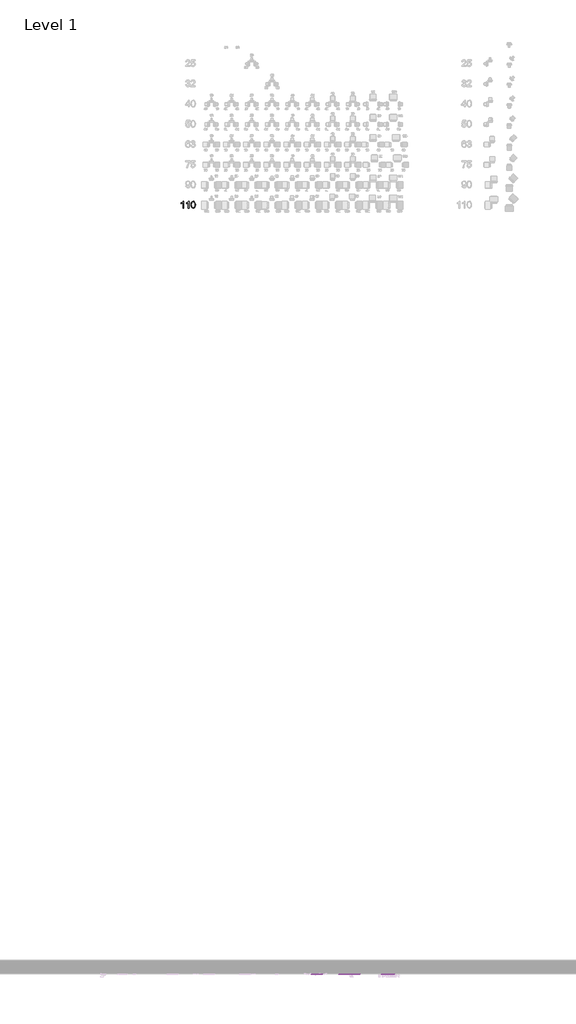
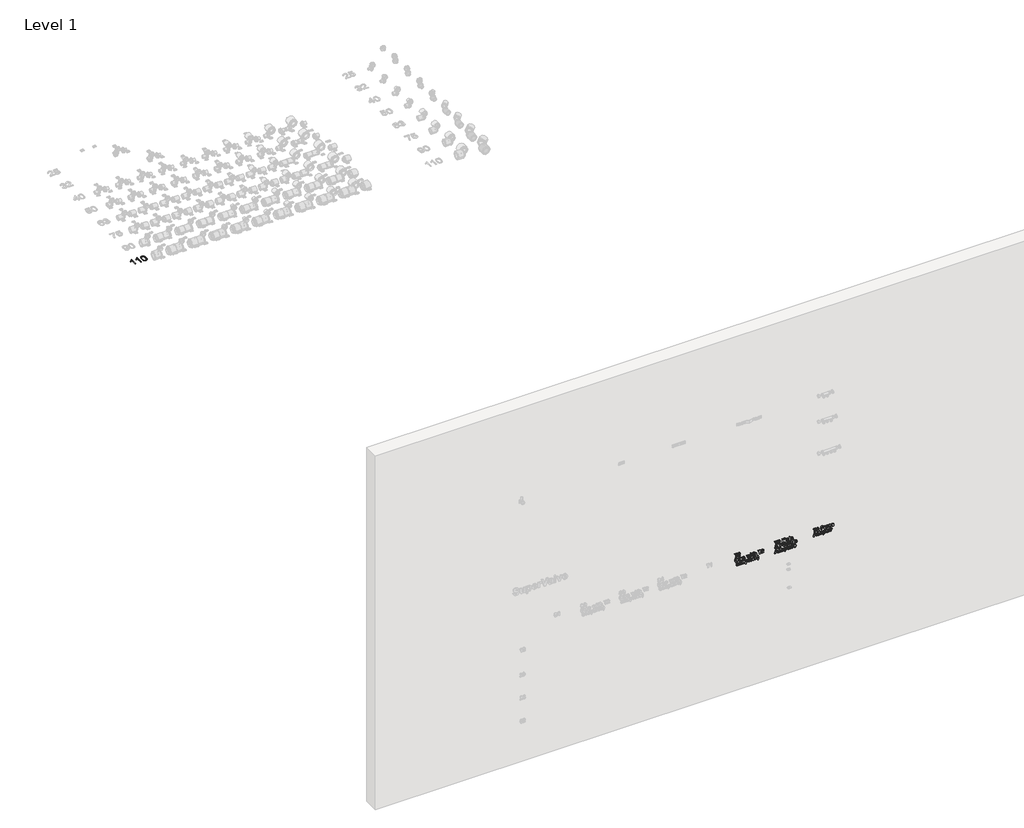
# One storey, part 16 of 58: 4 proxies.
"""IFC4 building model written with IfcOpenShell, lengths in millimetres."""

from ifc_helpers import new_model, si_unit, frame, origin, place, context, project, spatial, polyline, outline, extrude, element, save

model = new_model("IFC4")

# Units and contexts
model_context = context("Model", 3, world=origin())
ifc_project = project(units=[si_unit("LENGTHUNIT", "METRE", prefix="MILLI")], contexts=[model_context])

# Site, building, storey
site = spatial("IfcSite", under=ifc_project)
building = spatial("IfcBuilding", under=site)
storey = spatial("IfcBuildingStorey", under=building, Name="Level 1", Elevation=27.3876384)

# Proxies
placement = place(None, origin())
element("IfcBuildingElementProxy", 1, Name="100mm Arial", ObjectType="100mm Arial", at=placement, inside=storey, context=model_context, shape_type="SweptSolid", body=[
    extrude(outline(polyline([(12854.6585102, 15906.196048), (12842.1014715, 15906.196048), (12842.1014715, 15984.4813365), (12830.2066203, 15976.0077879), (12816.9873939, 15969.6679549), (12816.9873939, 15981.5382806), (12835.3937564, 15993.285979), (12846.5651063, 16006.6523581), (12854.6585102, 16006.6523581), (12854.6585102, 15906.196048)])), frame((0.0, 0.0, 27.3876384), z_axis=(0.0, 0.0, 1.0), x_axis=(1.0, 0.0, 0.0)), (0.0, 0.0, 1.0), 2.0),
    extrude(outline(polyline([(12931.5703727, 15906.196048), (12919.0133339, 15906.196048), (12919.0133339, 15984.4813365), (12907.1184827, 15976.0077879), (12893.8992564, 15969.6679549), (12893.8992564, 15981.5382806), (12912.3056189, 15993.285979), (12923.4769688, 16006.6523581), (12931.5703727, 16006.6523581), (12931.5703727, 15906.196048)])), frame((0.0, 0.0, 27.3876384), z_axis=(0.0, 0.0, 1.0), x_axis=(1.0, 0.0, 0.0)), (0.0, 0.0, 1.0), 2.0),
    extrude(outline(polyline([(12961.3933398, 15955.6148627), (12965.0844224, 15984.5181247), (12976.0473059, 16001.1831791), (12994.3555665, 16006.6523581), (13009.0217954, 16003.4149966), (13019.150813, 15994.0830566), (13025.0369249, 15979.220624), (13027.3177933, 15955.6148627), (13023.6634988, 15926.8342279), (13012.7374036, 15910.1323853), (13004.5060439, 15906.0029099), (12994.3555665, 15904.6264181), (12981.3080184, 15907.0176511), (12971.39973, 15914.19135), (12963.8949373, 15931.1813668), (12961.3933398, 15955.6148627)]), holes=[polyline([(12973.9503785, 15955.6393881), (12975.4219065, 15935.8871907), (12979.8364905, 15924.4552577), (12986.4093154, 15919.0014071), (12994.3555665, 15917.1834569), (13002.3018176, 15919.0075385), (13008.8746426, 15924.4797831), (13013.2892265, 15935.9178475), (13014.7607545, 15955.6393881), (13013.3382775, 15974.9470615), (13009.0708463, 15986.4678993), (13002.5102841, 15992.1884643), (12994.2084137, 15994.0953193), (12986.3480018, 15992.4153249), (12980.0326942, 15987.3753416), (12975.4709574, 15975.1371339), (12973.9503785, 15955.6393881)])]), frame((0.0, 0.0, 27.3876384), z_axis=(0.0, 0.0, 1.0), x_axis=(1.0, 0.0, 0.0)), (0.0, 0.0, 1.0), 2.0),
])
element("IfcBuildingElementProxy", 2, Name="50mm Arial", ObjectType="50mm Arial", at=placement, inside=storey, context=model_context, shape_type="SweptSolid", body=[
    extrude(outline(polyline([(1988.1712456, 14623.474325), (1988.1712456, 14633.1910812), (2030.2771891, 14633.1910812), (2030.2771891, 14647.7662155), (2039.1842156, 14647.7662155), (2039.1842156, 14608.8991908), (2030.2771891, 14608.8991908), (2030.2771891, 14623.474325), (1988.1712456, 14623.474325)])), frame((0.0, 4529.8703674, 0.0), z_axis=(0.0, 1.0, 0.0), x_axis=(0.0, 0.0, 1.0)), (0.0, 0.0, 1.0), 15.0),
    extrude(outline(polyline([(1997.8880018, 14685.0137809), (1997.8880018, 14666.9087313), (2000.5449273, 14668.7306231), (2006.0738628, 14674.2785366), (2012.450484, 14680.3198792), (2018.8397573, 14683.8877506), (2025.2669867, 14685.0137809), (2035.1925013, 14680.9018724), (2039.1842156, 14669.5909609), (2035.6226702, 14658.6469581), (2023.8752638, 14653.4343233), (2022.9896219, 14663.1510795), (2028.5881436, 14665.0235794), (2030.2771891, 14669.3758764), (2028.5628395, 14673.7218475), (2023.6475273, 14675.2970247), (2017.8022912, 14673.4245248), (2009.6543862, 14665.9092212), (1997.7045474, 14655.7243401), (1988.1712456, 14652.6245936), (1988.1712456, 14685.0137809), (1997.8880018, 14685.0137809)])), frame((0.0, 4529.8703674, 0.0), z_axis=(0.0, 1.0, 0.0), x_axis=(0.0, 0.0, 1.0)), (0.0, 0.0, 1.0), 15.0),
    extrude(outline(polyline([(1911.4501661, 14627.5229735), (1921.3313986, 14623.7400176), (1932.3449875, 14621.1716563), (1943.674877, 14620.2354063), (1958.8573086, 14621.7979316), (1976.2285407, 14627.5229735), (1976.2285407, 14621.045136), (1962.3113118, 14613.808177), (1943.8773095, 14610.5186501), (1927.6257817, 14613.2072057), (1911.4501661, 14621.045136), (1911.4501661, 14627.5229735)])), frame((0.0, 4529.8703674, 0.0), z_axis=(0.0, 1.0, 0.0), x_axis=(0.0, 0.0, 1.0)), (0.0, 0.0, 1.0), 15.0),
    extrude(outline(polyline([(1925.2155707, 14659.1024311), (1925.2155707, 14668.8191873), (1962.4631361, 14668.8191873), (1962.4631361, 14659.1024311), (1946.6607552, 14659.1024311), (1936.5454602, 14658.3875916), (1933.085131, 14655.7306661), (1931.6934081, 14651.3340869), (1932.7372003, 14647.7851936), (1935.5586022, 14645.8620856), (1945.2437283, 14645.3370265), (1962.4631361, 14645.3370265), (1962.4631361, 14635.6202703), (1938.9177151, 14635.6202703), (1930.67492, 14636.8854729), (1926.0506044, 14640.9847294), (1924.405841, 14647.3740027), (1926.0822345, 14654.0226425), (1930.681246, 14659.1024311), (1925.2155707, 14659.1024311)])), frame((0.0, 4529.8703674, 0.0), z_axis=(0.0, 1.0, 0.0), x_axis=(0.0, 0.0, 1.0)), (0.0, 0.0, 1.0), 15.0),
    extrude(outline(polyline([(1935.7420565, 14674.487295), (1927.4549793, 14680.1617288), (1924.405841, 14691.9344393), (1928.0686026, 14704.314447), (1936.8301308, 14708.4959417), (1944.13035, 14705.6112797), (1948.469995, 14695.3441604), (1951.1901806, 14686.7471085), (1952.9488123, 14685.8235106), (1954.9225284, 14686.7471085), (1955.9852986, 14691.3650981), (1954.732748, 14695.2872263), (1951.1269205, 14697.1597262), (1952.7463799, 14706.8764823), (1960.6159402, 14701.9801482), (1963.2728658, 14691.1120576), (1959.9833389, 14679.76319), (1951.8733901, 14676.1067544), (1943.5104007, 14680.3704873), (1938.7532388, 14694.9329695), (1937.4753842, 14698.1086281), (1935.6534924, 14698.7791855), (1933.072479, 14697.5139829), (1931.6934081, 14691.9344393), (1933.1357391, 14686.6901744), (1937.3615159, 14684.2040512), (1935.7420565, 14674.487295)])), frame((0.0, 4529.8703674, 0.0), z_axis=(0.0, 1.0, 0.0), x_axis=(0.0, 0.0, 1.0)), (0.0, 0.0, 1.0), 15.0),
    extrude(outline(polyline([(1936.5517862, 14738.45594), (1932.8447425, 14736.1659232), (1931.6934081, 14732.4335754), (1934.2491174, 14726.9805521), (1941.4101643, 14724.6905354), (1941.4101643, 14748.9824258), (1957.8957546, 14744.4909565), (1963.2728658, 14731.6744539), (1958.0349269, 14719.705637), (1943.5610088, 14714.9737792), (1930.7445062, 14718.5416506), (1925.9905073, 14724.2825075), (1924.405841, 14732.4715315), (1927.0943966, 14742.3780681), (1934.9323269, 14748.1726962), (1936.5517862, 14738.45594)]), holes=[polyline([(1947.0782721, 14739.2656696), (1947.0782721, 14724.8550117), (1953.5940656, 14726.8793359), (1955.9852986, 14732.0919707), (1953.7142599, 14737.1021732), (1947.0782721, 14739.2656696)])]), frame((0.0, 4529.8703674, 0.0), z_axis=(0.0, 1.0, 0.0), x_axis=(0.0, 0.0, 1.0)), (0.0, 0.0, 1.0), 15.0),
    extrude(outline(polyline([(1925.2155707, 14783.4718495), (1925.2155707, 14793.1506496), (1949.1658564, 14799.590531), (1925.2155707, 14806.1948887), (1925.2155707, 14815.7345165), (1962.4631361, 14827.526205), (1962.4631361, 14817.9486211), (1938.0573774, 14810.9267465), (1962.4631361, 14804.5374733), (1962.4631361, 14794.795413), (1938.0573774, 14788.2543154), (1962.4631361, 14781.2577449), (1962.4631361, 14771.6548569), (1925.2155707, 14783.4718495)])), frame((0.0, 4529.8703674, 0.0), z_axis=(0.0, 1.0, 0.0), x_axis=(0.0, 0.0, 1.0)), (0.0, 0.0, 1.0), 15.0),
    extrude(outline(polyline([(14842.1013393, 4529.8703674), (14832.3845831, 4529.8703674), (14832.3845831, 4544.8703674), (14842.1013393, 4544.8703674), (14842.1013393, 4529.8703674)])), frame((0.0, 0.0, 1967.3215142), z_axis=(0.0, 0.0, 1.0), x_axis=(1.0, 0.0, 0.0)), (0.0, 0.0, 1.0), 8.9070265),
    extrude(outline(polyline([(14842.1013393, 4529.8703674), (14832.3845831, 4529.8703674), (14832.3845831, 4544.8703674), (14842.1013393, 4544.8703674), (14842.1013393, 4529.8703674)])), frame((0.0, 0.0, 1925.2155707), z_axis=(0.0, 0.0, 1.0), x_axis=(1.0, 0.0, 0.0)), (0.0, 0.0, 1.0), 37.2475654),
    extrude(outline(polyline([(1962.4631361, 14869.6321485), (1962.4631361, 14862.3445814), (1975.418811, 14862.3445814), (1969.7507032, 14852.6278252), (1962.4631361, 14852.6278252), (1962.4631361, 14847.7694471), (1955.1755689, 14847.7694471), (1955.1755689, 14852.6278252), (1938.6520226, 14852.6278252), (1931.5795399, 14852.9441259), (1927.6700638, 14854.3674788), (1925.3167869, 14857.5747675), (1924.405841, 14862.4837537), (1925.7216517, 14870.4418782), (1932.6296581, 14870.0370134), (1931.6934081, 14865.4822839), (1932.2184672, 14863.5718279), (1933.54693, 14862.5659918), (1939.1960597, 14862.3445814), (1955.1755689, 14862.3445814), (1955.1755689, 14869.6321485), (1962.4631361, 14869.6321485)])), frame((0.0, 4529.8703674, 0.0), z_axis=(0.0, 1.0, 0.0), x_axis=(0.0, 0.0, 1.0)), (0.0, 0.0, 1.0), 15.0),
    extrude(outline(polyline([(1976.2285407, 14885.0170125), (1976.2285407, 14875.3002563), (1925.2155707, 14875.3002563), (1925.2155707, 14885.0170125), (1944.0038297, 14885.0170125), (1951.1648766, 14885.8836763), (1954.7833561, 14888.62284), (1955.9852986, 14892.8739208), (1955.0490487, 14896.315272), (1952.5249694, 14898.23838), (1945.0286438, 14898.7824171), (1925.2155707, 14898.7824171), (1925.2155707, 14908.4991733), (1947.0529681, 14908.4991733), (1954.4417514, 14908.0057443), (1958.7877224, 14906.1585484), (1962.0139891, 14902.1352041), (1963.2728658, 14896.1381436), (1957.7565823, 14885.0170125), (1976.2285407, 14885.0170125)])), frame((0.0, 4529.8703674, 0.0), z_axis=(0.0, 1.0, 0.0), x_axis=(0.0, 0.0, 1.0)), (0.0, 0.0, 1.0), 15.0),
    extrude(outline(polyline([(1925.2155707, 14948.9856574), (1925.2155707, 14958.7024136), (1967.3215142, 14958.7024136), (1967.3215142, 14973.2775479), (1976.2285407, 14973.2775479), (1976.2285407, 14934.4105231), (1967.3215142, 14934.4105231), (1967.3215142, 14948.9856574), (1925.2155707, 14948.9856574)])), frame((0.0, 4529.8703674, 0.0), z_axis=(0.0, 1.0, 0.0), x_axis=(0.0, 0.0, 1.0)), (0.0, 0.0, 1.0), 15.0),
    extrude(outline(polyline([(1934.9323269, 15010.5251133), (1934.9323269, 14992.4200637), (1937.5892524, 14994.2419555), (1943.1181879, 14999.789869), (1949.4948091, 15005.8312115), (1955.8840824, 15009.3990829), (1962.3113118, 15010.5251133), (1972.2368264, 15006.4132047), (1976.2285407, 14995.1022932), (1972.6669953, 14984.1582905), (1960.9195889, 14978.9456557), (1960.033947, 14988.6624119), (1965.6324687, 14990.5349117), (1967.3215142, 14994.8872088), (1965.6071646, 14999.2331798), (1960.6918524, 15000.8083571), (1954.8466162, 14998.9358572), (1946.6987113, 14991.4205536), (1934.7488725, 14981.2356724), (1925.2155707, 14978.135926), (1925.2155707, 15010.5251133), (1934.9323269, 15010.5251133)])), frame((0.0, 4529.8703674, 0.0), z_axis=(0.0, 1.0, 0.0), x_axis=(0.0, 0.0, 1.0)), (0.0, 0.0, 1.0), 15.0),
    extrude(outline(polyline([(1888.1712456, 14639.6689187), (1891.9542015, 14641.718547), (1893.0296237, 14645.2484623), (1891.7770731, 14649.7968657), (1886.5517862, 14651.0051343), (1884.1352492, 14641.9589355), (1881.8452325, 14634.5575001), (1878.0622766, 14630.5657858), (1872.4447769, 14629.1424328), (1864.5688906, 14632.3370695), (1861.4501661, 14641.0732936), (1862.7343467, 14646.9817899), (1865.3469902, 14652.5233774), (1862.2598958, 14653.4343233), (1862.2598958, 14663.1510795), (1867.2574461, 14661.2342975), (1874.4944052, 14660.7218904), (1885.982445, 14660.7218904), (1894.7945814, 14659.4819919), (1898.7546656, 14655.205607), (1900.3171908, 14645.9569758), (1897.7361775, 14635.6519004), (1889.790705, 14630.7618922), (1888.1712456, 14639.6689187)]), holes=[polyline([(1879.2642191, 14651.0051343), (1877.5055874, 14651.0051343), (1873.2165505, 14650.6508775), (1870.3065845, 14648.500033), (1868.7377332, 14643.8567394), (1870.085174, 14640.2698899), (1873.2798107, 14638.859189), (1876.3795571, 14640.6178207), (1877.9167783, 14645.5268069), (1879.2642191, 14651.0051343)])]), frame((0.0, 4529.8703674, 0.0), z_axis=(0.0, 1.0, 0.0), x_axis=(0.0, 0.0, 1.0)), (0.0, 0.0, 1.0), 15.0),
    extrude(outline(polyline([(1862.2598958, 14703.6375636), (1913.2728658, 14703.6375636), (1913.2728658, 14693.9208074), (1895.2184242, 14693.9208074), (1900.3171908, 14683.3690175), (1895.3955526, 14672.3617546), (1881.0228507, 14668.0094576), (1866.6121928, 14672.3680806), (1861.4501661, 14682.8376324), (1862.9747352, 14688.7904108), (1867.6243549, 14693.9208074), (1862.2598958, 14693.9208074), (1862.2598958, 14703.6375636)]), holes=[polyline([(1881.5921919, 14677.7262138), (1890.1576137, 14680.0541866), (1893.0296237, 14685.8235106), (1890.1259837, 14691.6497687), (1880.6179859, 14693.9208074), (1871.7172854, 14691.5801826), (1868.7377332, 14685.8867707), (1872.7104695, 14679.3456731), (1881.5921919, 14677.7262138)])]), frame((0.0, 4529.8703674, 0.0), z_axis=(0.0, 1.0, 0.0), x_axis=(0.0, 0.0, 1.0)), (0.0, 0.0, 1.0), 15.0),
    extrude(outline(polyline([(1888.1712456, 14721.4516166), (1891.9542015, 14723.5012449), (1893.0296237, 14727.0311602), (1891.7770731, 14731.5795637), (1886.5517862, 14732.7878322), (1884.1352492, 14723.7416334), (1881.8452325, 14716.340198), (1878.0622766, 14712.3484837), (1872.4447769, 14710.9251308), (1864.5688906, 14714.1197674), (1861.4501661, 14722.8559915), (1862.7343467, 14728.7644878), (1865.3469902, 14734.3060753), (1862.2598958, 14735.2170212), (1862.2598958, 14744.9337774), (1867.2574461, 14743.0169954), (1874.4944052, 14742.5045884), (1885.982445, 14742.5045884), (1894.7945814, 14741.2646898), (1898.7546656, 14736.9883049), (1900.3171908, 14727.7396737), (1897.7361775, 14717.4345983), (1889.790705, 14712.5445901), (1888.1712456, 14721.4516166)]), holes=[polyline([(1879.2642191, 14732.7878322), (1877.5055874, 14732.7878322), (1873.2165505, 14732.4335754), (1870.3065845, 14730.282731), (1868.7377332, 14725.6394373), (1870.085174, 14722.0525879), (1873.2798107, 14720.6418869), (1876.3795571, 14722.4005186), (1877.9167783, 14727.3095048), (1879.2642191, 14732.7878322)])]), frame((0.0, 4529.8703674, 0.0), z_axis=(0.0, 1.0, 0.0), x_axis=(0.0, 0.0, 1.0)), (0.0, 0.0, 1.0), 15.0),
    extrude(outline(polyline([(1899.5074612, 14752.2213446), (1848.4944912, 14752.2213446), (1848.4944912, 14761.9381008), (1866.7766691, 14761.9381008), (1862.6521086, 14767.1001275), (1861.4501661, 14772.5784549), (1866.6121928, 14783.3896113), (1881.0987629, 14787.8494506), (1895.2374023, 14783.5287836), (1900.3171908, 14773.0212758), (1898.6091673, 14766.5560904), (1894.143002, 14761.9381008), (1899.5074612, 14761.9381008), (1899.5074612, 14752.2213446)]), holes=[polyline([(1881.5289318, 14761.9381008), (1890.1259837, 14764.2723996), (1893.0296237, 14770.1366138), (1890.0690495, 14775.8363516), (1881.0101987, 14778.1326944), (1871.6034172, 14775.8996118), (1868.7377332, 14770.3137422), (1871.8627837, 14764.3736158), (1881.5289318, 14761.9381008)])]), frame((0.0, 4529.8703674, 0.0), z_axis=(0.0, 1.0, 0.0), x_axis=(0.0, 0.0, 1.0)), (0.0, 0.0, 1.0), 15.0),
    extrude(outline(polyline([(1899.5074612, 14812.9510708), (1899.5074612, 14805.6635036), (1912.4631361, 14805.6635036), (1906.7950283, 14795.9467474), (1899.5074612, 14795.9467474), (1899.5074612, 14791.0883693), (1892.219894, 14791.0883693), (1892.219894, 14795.9467474), (1875.6963477, 14795.9467474), (1868.623865, 14796.2630481), (1864.7143889, 14797.686401), (1862.361112, 14800.8936897), (1861.4501661, 14805.8026759), (1862.7659768, 14813.7608004), (1869.6739832, 14813.3559356), (1868.7377332, 14808.8012061), (1869.2627923, 14806.8907502), (1870.5912551, 14805.8849141), (1876.2403848, 14805.6635036), (1892.219894, 14805.6635036), (1892.219894, 14812.9510708), (1899.5074612, 14812.9510708)])), frame((0.0, 4529.8703674, 0.0), z_axis=(0.0, 1.0, 0.0), x_axis=(0.0, 0.0, 1.0)), (0.0, 0.0, 1.0), 15.0),
    extrude(outline(polyline([(1873.5961113, 14839.6721503), (1869.8890676, 14837.3821335), (1868.7377332, 14833.6497858), (1871.2934425, 14828.1967624), (1878.4544894, 14825.9067457), (1878.4544894, 14850.1986361), (1894.9400797, 14845.7071668), (1900.3171908, 14832.8906642), (1895.079252, 14820.9218473), (1880.6053339, 14816.1899895), (1867.7888312, 14819.7578609), (1863.0348324, 14825.4987178), (1861.4501661, 14833.6877418), (1864.1387217, 14843.5942784), (1871.9766519, 14849.3889065), (1873.5961113, 14839.6721503)]), holes=[polyline([(1884.1225972, 14840.48188), (1884.1225972, 14826.071222), (1890.6383907, 14828.0955462), (1893.0296237, 14833.3081811), (1890.758585, 14838.3183835), (1884.1225972, 14840.48188)])]), frame((0.0, 4529.8703674, 0.0), z_axis=(0.0, 1.0, 0.0), x_axis=(0.0, 0.0, 1.0)), (0.0, 0.0, 1.0), 15.0),
    extrude(outline(polyline([(1862.2598958, 14867.2029595), (1873.4063309, 14867.2029595), (1885.501668, 14868.0063632), (1889.4933823, 14870.2078157), (1890.6004346, 14873.6301888), (1889.0189314, 14878.1343102), (1898.2675626, 14880.9683641), (1900.3171908, 14875.0092597), (1899.1595304, 14871.0871316), (1894.3201304, 14867.2029595), (1899.5074612, 14867.2029595), (1899.5074612, 14857.4862033), (1862.2598958, 14857.4862033), (1862.2598958, 14867.2029595)])), frame((0.0, 4529.8703674, 0.0), z_axis=(0.0, 1.0, 0.0), x_axis=(0.0, 0.0, 1.0)), (0.0, 0.0, 1.0), 15.0),
    extrude(outline(polyline([(1872.7863816, 14880.9683641), (1864.4993044, 14886.6427979), (1861.4501661, 14898.4155083), (1865.1129277, 14910.7955161), (1873.8744559, 14914.9770107), (1881.1746751, 14912.0923488), (1885.5143201, 14901.8252294), (1888.2345057, 14893.2281776), (1889.9931374, 14892.3045796), (1891.9668535, 14893.2281776), (1893.0296237, 14897.8461672), (1891.7770731, 14901.7682953), (1888.1712456, 14903.6407952), (1889.790705, 14913.3575514), (1897.6602653, 14908.4612172), (1900.3171908, 14897.5931266), (1897.027664, 14886.244259), (1888.9177151, 14882.5878234), (1880.5547258, 14886.8515563), (1875.7975639, 14901.4140386), (1874.5197092, 14904.5896972), (1872.6978174, 14905.2602546), (1870.1168041, 14903.9950519), (1868.7377332, 14898.4155083), (1870.1800642, 14893.1712434), (1874.405841, 14890.6851203), (1872.7863816, 14880.9683641)])), frame((0.0, 4529.8703674, 0.0), z_axis=(0.0, 1.0, 0.0), x_axis=(0.0, 0.0, 1.0)), (0.0, 0.0, 1.0), 15.0),
    extrude(outline(polyline([(1848.4944912, 14922.2645779), (1848.4944912, 14928.7424154), (1866.3211962, 14937.0547966), (1881.4277156, 14939.2689012), (1897.9006538, 14936.5044335), (1913.2728658, 14928.7424154), (1913.2728658, 14922.2645779), (1895.9016337, 14927.9959458), (1880.7192021, 14929.552145), (1873.0141181, 14929.1219761), (1865.0749716, 14927.7998394), (1857.6925143, 14925.8640794), (1848.4944912, 14922.2645779)])), frame((0.0, 4529.8703674, 0.0), z_axis=(0.0, 1.0, 0.0), x_axis=(0.0, 0.0, 1.0)), (0.0, 0.0, 1.0), 15.0),
])
element("IfcBuildingElementProxy", 3, Name="50mm Arial", ObjectType="50mm Arial", at=placement, inside=storey, context=model_context, shape_type="SweptSolid", body=[
    extrude(outline(polyline([(1979.5382617, 15178.6916494), (1979.5382617, 15188.4084056), (2021.6442051, 15188.4084056), (2021.6442051, 15202.9835399), (2030.5512317, 15202.9835399), (2030.5512317, 15164.1165152), (2021.6442051, 15164.1165152), (2021.6442051, 15178.6916494), (1979.5382617, 15178.6916494)])), frame((0.0, 4529.8703674, 0.0), z_axis=(0.0, 1.0, 0.0), x_axis=(0.0, 0.0, 1.0)), (0.0, 0.0, 1.0), 15.0),
    extrude(outline(polyline([(1989.2550178, 15240.2311053), (1989.2550178, 15222.1260557), (1991.9119434, 15223.9479475), (1997.4408789, 15229.495861), (2003.8175001, 15235.5372036), (2010.2067734, 15239.105075), (2016.6340027, 15240.2311053), (2026.5595174, 15236.1191968), (2030.5512317, 15224.8082853), (2026.9896863, 15213.8642825), (2015.2422798, 15208.6516477), (2014.356638, 15218.3684039), (2019.9551596, 15220.2409038), (2021.6442051, 15224.5932008), (2019.9298556, 15228.9391718), (2015.0145434, 15230.5143491), (2009.1693072, 15228.6418492), (2001.0214023, 15221.1265456), (1989.0715635, 15210.9416644), (1979.5382617, 15207.841918), (1979.5382617, 15240.2311053), (1989.2550178, 15240.2311053)])), frame((0.0, 4529.8703674, 0.0), z_axis=(0.0, 1.0, 0.0), x_axis=(0.0, 0.0, 1.0)), (0.0, 0.0, 1.0), 15.0),
    extrude(outline(polyline([(1979.5382617, 15267.7619145), (1979.5382617, 15277.4786707), (2019.6957931, 15277.8835355), (1979.5382617, 15286.77791), (1979.5382617, 15298.1520817), (2019.6957931, 15307.0338041), (1979.5382617, 15307.438669), (1979.5382617, 15317.1554251), (2030.5512317, 15317.1554251), (2030.5512317, 15300.5053585), (1995.7581594, 15292.4586698), (2030.5512317, 15284.4119811), (2030.5512317, 15267.7619145), (1979.5382617, 15267.7619145)])), frame((0.0, 4529.8703674, 0.0), z_axis=(0.0, 1.0, 0.0), x_axis=(0.0, 0.0, 1.0)), (0.0, 0.0, 1.0), 15.0),
    extrude(outline(polyline([(2005.4496115, 15334.9694782), (2009.2325674, 15337.0191064), (2010.3079896, 15340.5490218), (2009.055439, 15345.0974252), (2003.8301521, 15346.3056937), (2001.4136151, 15337.2594949), (1999.1235984, 15329.8580595), (1995.3406425, 15325.8663452), (1989.7231428, 15324.4429923), (1981.8472565, 15327.6376289), (1978.728532, 15336.3738531), (1980.0127126, 15342.2823494), (1982.6253561, 15347.8239369), (1979.5382617, 15348.7348828), (1979.5382617, 15358.451639), (1984.535812, 15356.534857), (1991.7727711, 15356.0224499), (2003.2608109, 15356.0224499), (2012.0729473, 15354.7825513), (2016.0330315, 15350.5061664), (2017.5955567, 15341.2575352), (2015.0145434, 15330.9524598), (2007.0690709, 15326.0624517), (2005.4496115, 15334.9694782)]), holes=[polyline([(1996.542585, 15346.3056937), (1994.7839533, 15346.3056937), (1990.4949164, 15345.951437), (1987.5849504, 15343.8005925), (1986.0160991, 15339.1572989), (1987.3635399, 15335.5704494), (1990.5581766, 15334.1597485), (1993.657923, 15335.9183801), (1995.1951442, 15340.8273663), (1996.542585, 15346.3056937)])]), frame((0.0, 4529.8703674, 0.0), z_axis=(0.0, 1.0, 0.0), x_axis=(0.0, 0.0, 1.0)), (0.0, 0.0, 1.0), 15.0),
    extrude(outline(polyline([(15375.4559623, 4529.8703674), (15365.7392061, 4529.8703674), (15365.7392061, 4544.8703674), (15375.4559623, 4544.8703674), (15375.4559623, 4529.8703674)])), frame((0.0, 0.0, 1979.5382617), z_axis=(0.0, 0.0, 1.0), x_axis=(1.0, 0.0, 0.0)), (0.0, 0.0, 1.0), 51.01297),
    extrude(outline(polyline([(1990.8744772, 15406.2256902), (1987.1674335, 15403.9356735), (1986.0160991, 15400.2033257), (1988.5718084, 15394.7503024), (1995.7328553, 15392.4602856), (1995.7328553, 15416.7521761), (2012.2184456, 15412.2607068), (2017.5955567, 15399.4442041), (2012.3576179, 15387.4753873), (1997.8836998, 15382.7435294), (1985.0671971, 15386.3114008), (1980.3131983, 15392.0522578), (1978.728532, 15400.2412818), (1981.4170876, 15410.1478184), (1989.2550178, 15415.9424464), (1990.8744772, 15406.2256902)]), holes=[polyline([(2001.4009631, 15407.0354199), (2001.4009631, 15392.624762), (2007.9167566, 15394.6490862), (2010.3079896, 15399.861721), (2008.0369509, 15404.8719234), (2001.4009631, 15407.0354199)])]), frame((0.0, 4529.8703674, 0.0), z_axis=(0.0, 1.0, 0.0), x_axis=(0.0, 0.0, 1.0)), (0.0, 0.0, 1.0), 15.0),
    extrude(outline(polyline([(1923.6424174, 15212.7002961), (1926.0716065, 15208.7338859), (1929.4370454, 15204.3373067), (1933.0175689, 15206.5134552), (1939.786403, 15208.9046882), (1941.8107272, 15199.7193171), (1936.0540552, 15197.264824), (1945.5177709, 15190.0784731), (1951.5717654, 15197.8278392), (1957.2335472, 15199.7446212), (1965.1600417, 15196.0185994), (1968.4052864, 15185.6755679), (1965.2802359, 15175.111126), (1957.6637161, 15171.4040823), (1952.5143414, 15172.8147832), (1946.7829735, 15177.021582), (1939.8686411, 15168.5637024), (1930.9046805, 15165.7359745), (1921.2132284, 15169.354454), (1917.1329499, 15175.1617341), (1915.7728571, 15183.271683), (1917.2278401, 15191.3057196), (1921.7572655, 15197.6949929), (1915.7728571, 15206.5514113), (1923.6424174, 15212.7002961)]), holes=[polyline([(1951.0593584, 15185.1694869), (1953.8048481, 15183.0692505), (1958.119189, 15181.1208385), (1960.7761146, 15182.2784989), (1961.927449, 15185.4731355), (1960.6242903, 15188.7942924), (1957.4739357, 15190.027865), (1953.0457265, 15187.4721557), (1951.0593584, 15185.1694869)]), polyline([(1940.5075685, 15181.7028317), (1928.5134475, 15190.6604663), (1925.5718514, 15186.4346895), (1924.6798836, 15182.4113452), (1926.6346216, 15177.3442086), (1931.6891061, 15175.4527307), (1936.4905501, 15177.0089299), (1940.5075685, 15181.7028317)])]), frame((0.0, 4529.8703674, 0.0), z_axis=(0.0, 1.0, 0.0), x_axis=(0.0, 0.0, 1.0)), (0.0, 0.0, 1.0), 15.0),
    extrude(outline(polyline([(1916.5825867, 15237.8019163), (1916.5825867, 15247.5186724), (1938.4452882, 15247.5186724), (1938.4452882, 15269.3813739), (1947.3523147, 15269.3813739), (1947.3523147, 15247.5186724), (1958.6885302, 15247.5186724), (1958.6885302, 15272.6202926), (1967.5955567, 15272.6202926), (1967.5955567, 15237.8019163), (1916.5825867, 15237.8019163)])), frame((0.0, 4529.8703674, 0.0), z_axis=(0.0, 1.0, 0.0), x_axis=(0.0, 0.0, 1.0)), (0.0, 0.0, 1.0), 15.0),
    extrude(outline(polyline([(1927.9188023, 15301.7705612), (1924.2117586, 15299.4805444), (1923.0604242, 15295.7481967), (1925.6161335, 15290.2951733), (1932.7771804, 15288.0051566), (1932.7771804, 15312.297047), (1949.2627706, 15307.8055777), (1954.6398818, 15294.9890751), (1949.4019429, 15283.0202582), (1934.9280249, 15278.2884004), (1922.1115222, 15281.8562718), (1917.3575233, 15287.5971287), (1915.7728571, 15295.7861527), (1918.4614126, 15305.6926893), (1926.2993429, 15311.4873174), (1927.9188023, 15301.7705612)]), holes=[polyline([(1938.4452882, 15302.5802909), (1938.4452882, 15288.1696329), (1944.9610817, 15290.1939571), (1947.3523147, 15295.406592), (1945.081276, 15300.4167944), (1938.4452882, 15302.5802909)])]), frame((0.0, 4529.8703674, 0.0), z_axis=(0.0, 1.0, 0.0), x_axis=(0.0, 0.0, 1.0)), (0.0, 0.0, 1.0), 15.0),
    extrude(outline(polyline([(1953.8301521, 15318.7748845), (1916.5825867, 15318.7748845), (1916.5825867, 15328.4916407), (1934.8141566, 15328.4916407), (1942.5508707, 15329.2507623), (1946.1187421, 15331.7558635), (1947.3523147, 15335.6906437), (1946.5742151, 15338.5689796), (1944.2082861, 15340.1315049), (1937.1421295, 15340.6375859), (1916.5825867, 15340.6375859), (1916.5825867, 15350.3543421), (1934.5990722, 15350.3543421), (1942.3547643, 15351.1324417), (1946.080786, 15353.675499), (1947.3523147, 15357.4394768), (1945.2267743, 15361.5134293), (1938.0277713, 15362.5002874), (1916.5825867, 15362.5002874), (1916.5825867, 15372.2170436), (1940.3810482, 15372.2170436), (1948.0861322, 15371.2301855), (1952.9761404, 15367.0803209), (1954.6398818, 15360.3114868), (1953.2165289, 15354.3840125), (1948.9085139, 15349.2156598), (1953.2165289, 15345.1733374), (1954.6398818, 15339.3597313), (1948.8452538, 15328.4916407), (1953.8301521, 15328.4916407), (1953.8301521, 15318.7748845)])), frame((0.0, 4529.8703674, 0.0), z_axis=(0.0, 1.0, 0.0), x_axis=(0.0, 0.0, 1.0)), (0.0, 0.0, 1.0), 15.0),
    extrude(outline(polyline([(1942.4939366, 15390.0310966), (1946.2768924, 15392.0807248), (1947.3523147, 15395.6106402), (1946.0997641, 15400.1590436), (1940.8744772, 15401.3673121), (1938.4579402, 15392.3211133), (1936.1679234, 15384.9196779), (1932.3849676, 15380.9279637), (1926.7674679, 15379.5046107), (1918.8915815, 15382.6992473), (1915.7728571, 15391.4354715), (1917.0570377, 15397.3439678), (1919.6696812, 15402.8855553), (1916.5825867, 15403.7965012), (1916.5825867, 15413.5132574), (1921.5801371, 15411.5964754), (1928.8170962, 15411.0840683), (1940.305136, 15411.0840683), (1949.1172723, 15409.8441697), (1953.0773566, 15405.5677849), (1954.6398818, 15396.3191536), (1952.0588685, 15386.0140782), (1944.1133959, 15381.1240701), (1942.4939366, 15390.0310966)]), holes=[polyline([(1933.5869101, 15401.3673121), (1931.8282784, 15401.3673121), (1927.5392415, 15401.0130554), (1924.6292755, 15398.8622109), (1923.0604242, 15394.2189173), (1924.407865, 15390.6320678), (1927.6025016, 15389.2213669), (1930.7022481, 15390.9799985), (1932.2394693, 15395.8889847), (1933.5869101, 15401.3673121)])]), frame((0.0, 4529.8703674, 0.0), z_axis=(0.0, 1.0, 0.0), x_axis=(0.0, 0.0, 1.0)), (0.0, 0.0, 1.0), 15.0),
    extrude(outline(polyline([(15430.5175807, 4529.8703674), (15420.8008245, 4529.8703674), (15420.8008245, 4544.8703674), (15430.5175807, 4544.8703674), (15430.5175807, 4529.8703674)])), frame((0.0, 0.0, 1916.5825867), z_axis=(0.0, 0.0, 1.0), x_axis=(1.0, 0.0, 0.0)), (0.0, 0.0, 1.0), 51.01297),
    extrude(outline(polyline([(1927.9188023, 15461.2873086), (1924.2117586, 15458.9972919), (1923.0604242, 15455.2649441), (1925.6161335, 15449.8119208), (1932.7771804, 15447.521904), (1932.7771804, 15471.8137945), (1949.2627706, 15467.3223252), (1954.6398818, 15454.5058225), (1949.4019429, 15442.5370057), (1934.9280249, 15437.8051478), (1922.1115222, 15441.3730193), (1917.3575233, 15447.1138762), (1915.7728571, 15455.3029002), (1918.4614126, 15465.2094368), (1926.2993429, 15471.0040648), (1927.9188023, 15461.2873086)]), holes=[polyline([(1938.4452882, 15462.0970383), (1938.4452882, 15447.6863804), (1944.9610817, 15449.7107046), (1947.3523147, 15454.9233394), (1945.081276, 15459.9335418), (1938.4452882, 15462.0970383)])]), frame((0.0, 4529.8703674, 0.0), z_axis=(0.0, 1.0, 0.0), x_axis=(0.0, 0.0, 1.0)), (0.0, 0.0, 1.0), 15.0),
    extrude(outline(polyline([(1853.6269118, 15210.2711071), (1904.6398818, 15191.470196), (1904.6398818, 15181.1208385), (1853.6269118, 15162.4970558), (1853.6269118, 15172.8464133), (1864.9631274, 15176.7938455), (1864.9631274, 15196.0628815), (1853.6269118, 15200.0609218), (1853.6269118, 15210.2711071)]), holes=[polyline([(1873.8701539, 15192.9504831), (1873.8701539, 15179.906244), (1892.4939366, 15186.3840814), (1873.8701539, 15192.9504831)])]), frame((0.0, 4529.8703674, 0.0), z_axis=(0.0, 1.0, 0.0), x_axis=(0.0, 0.0, 1.0)), (0.0, 0.0, 1.0), 15.0),
    extrude(outline(polyline([(1853.6269118, 15248.3284021), (1904.6398818, 15248.3284021), (1904.6398818, 15238.6116459), (1886.5854403, 15238.6116459), (1891.6842069, 15228.059856), (1886.7625687, 15217.0525931), (1872.3898668, 15212.7002961), (1857.9792089, 15217.0589192), (1852.8171821, 15227.5284709), (1854.3417513, 15233.4812493), (1858.991371, 15238.6116459), (1853.6269118, 15238.6116459), (1853.6269118, 15248.3284021)]), holes=[polyline([(1872.959208, 15222.4170523), (1881.5246298, 15224.7450251), (1884.3966398, 15230.5143491), (1881.4929997, 15236.3406072), (1871.985002, 15238.6116459), (1863.0843015, 15236.2710211), (1860.1047493, 15230.5776092), (1864.0774855, 15224.0365117), (1872.959208, 15222.4170523)])]), frame((0.0, 4529.8703674, 0.0), z_axis=(0.0, 1.0, 0.0), x_axis=(0.0, 0.0, 1.0)), (0.0, 0.0, 1.0), 15.0),
    extrude(outline(polyline([(1879.5382617, 15266.1424551), (1883.3212175, 15268.1920834), (1884.3966398, 15271.7219987), (1883.1440892, 15276.2704022), (1877.9188023, 15277.4786707), (1875.5022653, 15268.4324719), (1873.2122485, 15261.0310365), (1869.4292927, 15257.0393222), (1863.811793, 15255.6159693), (1855.9359066, 15258.8106059), (1852.8171821, 15267.5468301), (1854.1013628, 15273.4553263), (1856.7140062, 15278.9969139), (1853.6269118, 15279.9078597), (1853.6269118, 15289.6246159), (1858.6244622, 15287.707834), (1865.8614212, 15287.1954269), (1877.3494611, 15287.1954269), (1886.1615974, 15285.9555283), (1890.1216816, 15281.6791434), (1891.6842069, 15272.4305122), (1889.1031935, 15262.1254368), (1881.157721, 15257.2354286), (1879.5382617, 15266.1424551)]), holes=[polyline([(1870.6312352, 15277.4786707), (1868.8726035, 15277.4786707), (1864.5835666, 15277.124414), (1861.6736005, 15274.9735695), (1860.1047493, 15270.3302758), (1861.4521901, 15266.7434264), (1864.6468267, 15265.3327255), (1867.7465732, 15267.0913571), (1869.2837944, 15272.0003433), (1870.6312352, 15277.4786707)])]), frame((0.0, 4529.8703674, 0.0), z_axis=(0.0, 1.0, 0.0), x_axis=(0.0, 0.0, 1.0)), (0.0, 0.0, 1.0), 15.0),
    extrude(outline(polyline([(1890.8744772, 15296.9121831), (1839.8615072, 15296.9121831), (1839.8615072, 15306.6289393), (1858.1436852, 15306.6289393), (1854.0191246, 15311.790966), (1852.8171821, 15317.2692934), (1857.9792089, 15328.0804498), (1872.465779, 15332.5402891), (1886.6044183, 15328.2196221), (1891.6842069, 15317.7121143), (1889.9761833, 15311.2469289), (1885.5100181, 15306.6289393), (1890.8744772, 15306.6289393), (1890.8744772, 15296.9121831)]), holes=[polyline([(1872.8959479, 15306.6289393), (1881.4929997, 15308.9632381), (1884.3966398, 15314.8274523), (1881.4360656, 15320.5271902), (1872.3772148, 15322.8235329), (1862.9704332, 15320.5904503), (1860.1047493, 15315.0045807), (1863.2297998, 15309.0644543), (1872.8959479, 15306.6289393)])]), frame((0.0, 4529.8703674, 0.0), z_axis=(0.0, 1.0, 0.0), x_axis=(0.0, 0.0, 1.0)), (0.0, 0.0, 1.0), 15.0),
    extrude(outline(polyline([(1890.8744772, 15357.6419093), (1890.8744772, 15350.3543421), (1903.8301521, 15350.3543421), (1898.1620444, 15340.6375859), (1890.8744772, 15340.6375859), (1890.8744772, 15335.7792078), (1883.5869101, 15335.7792078), (1883.5869101, 15340.6375859), (1867.0633637, 15340.6375859), (1859.990881, 15340.9538866), (1856.0814049, 15342.3772396), (1853.728128, 15345.5845282), (1852.8171821, 15350.4935144), (1854.1329929, 15358.451639), (1861.0409992, 15358.0467741), (1860.1047493, 15353.4920446), (1860.6298084, 15351.5815887), (1861.9582711, 15350.5757526), (1867.6074009, 15350.3543421), (1883.5869101, 15350.3543421), (1883.5869101, 15357.6419093), (1890.8744772, 15357.6419093)])), frame((0.0, 4529.8703674, 0.0), z_axis=(0.0, 1.0, 0.0), x_axis=(0.0, 0.0, 1.0)), (0.0, 0.0, 1.0), 15.0),
    extrude(outline(polyline([(1864.9631274, 15384.3629888), (1861.2560837, 15382.072972), (1860.1047493, 15378.3406243), (1862.6604586, 15372.8876009), (1869.8215055, 15370.5975842), (1869.8215055, 15394.8894747), (1886.3070957, 15390.3980053), (1891.6842069, 15377.5815027), (1886.446268, 15365.6126858), (1871.9723499, 15360.880828), (1859.1558473, 15364.4486994), (1854.4018484, 15370.1895563), (1852.8171821, 15378.3785804), (1855.5057377, 15388.2851169), (1863.343668, 15394.079745), (1864.9631274, 15384.3629888)]), holes=[polyline([(1875.4896132, 15385.1727185), (1875.4896132, 15370.7620605), (1882.0054068, 15372.7863847), (1884.3966398, 15377.9990196), (1882.125601, 15383.009222), (1875.4896132, 15385.1727185)])]), frame((0.0, 4529.8703674, 0.0), z_axis=(0.0, 1.0, 0.0), x_axis=(0.0, 0.0, 1.0)), (0.0, 0.0, 1.0), 15.0),
    extrude(outline(polyline([(1853.6269118, 15411.893798), (1864.773347, 15411.893798), (1876.8686841, 15412.6972017), (1880.8603984, 15414.8986542), (1881.9674507, 15418.3210274), (1880.3859474, 15422.8251487), (1889.6345786, 15425.6592026), (1891.6842069, 15419.7000982), (1890.5265465, 15415.7779701), (1885.6871464, 15411.893798), (1890.8744772, 15411.893798), (1890.8744772, 15402.1770418), (1853.6269118, 15402.1770418), (1853.6269118, 15411.893798)])), frame((0.0, 4529.8703674, 0.0), z_axis=(0.0, 1.0, 0.0), x_axis=(0.0, 0.0, 1.0)), (0.0, 0.0, 1.0), 15.0),
    extrude(outline(polyline([(1864.1533977, 15425.6592026), (1855.8663205, 15431.3336364), (1852.8171821, 15443.1063469), (1856.4799437, 15455.4863546), (1865.241472, 15459.6678493), (1872.5416911, 15456.7831873), (1876.8813361, 15446.5160679), (1879.6015218, 15437.9190161), (1881.3601534, 15436.9954182), (1883.3338695, 15437.9190161), (1884.3966398, 15442.5370057), (1883.1440892, 15446.4591338), (1879.5382617, 15448.3316337), (1881.157721, 15458.0483899), (1889.0272814, 15453.1520557), (1891.6842069, 15442.2839651), (1888.3946801, 15430.9350976), (1880.2847312, 15427.278662), (1871.9217418, 15431.5423948), (1867.1645799, 15446.1048771), (1865.8867253, 15449.2805357), (1864.0648335, 15449.9510931), (1861.4838201, 15448.6858904), (1860.1047493, 15443.1063469), (1861.5470803, 15437.862082), (1865.7728571, 15435.3759588), (1864.1533977, 15425.6592026)])), frame((0.0, 4529.8703674, 0.0), z_axis=(0.0, 1.0, 0.0), x_axis=(0.0, 0.0, 1.0)), (0.0, 0.0, 1.0), 15.0),
])
element("IfcBuildingElementProxy", 4, Name="50mm Arial", ObjectType="50mm Arial", at=placement, inside=storey, context=model_context, shape_type="SweptSolid", body=[
    extrude(outline(polyline([(1978.1436937, 15714.4889133), (1978.1436937, 15724.2056695), (2020.2496372, 15724.2056695), (2020.2496372, 15738.7808038), (2029.1566637, 15738.7808038), (2029.1566637, 15699.9137791), (2020.2496372, 15699.9137791), (2020.2496372, 15714.4889133), (1978.1436937, 15714.4889133)])), frame((0.0, 4529.8703674, 0.0), z_axis=(0.0, 1.0, 0.0), x_axis=(0.0, 0.0, 1.0)), (0.0, 0.0, 1.0), 15.0),
    extrude(outline(polyline([(1987.8604499, 15776.0283692), (1987.8604499, 15757.9233196), (1990.5173754, 15759.7452114), (1996.0463109, 15765.2931249), (2002.4229321, 15771.3344675), (2008.8122054, 15774.9023389), (2015.2394348, 15776.0283692), (2025.1649494, 15771.9164607), (2029.1566637, 15760.6055492), (2025.5951183, 15749.6615464), (2013.8477119, 15744.4489116), (2012.96207, 15754.1656678), (2018.5605917, 15756.0381677), (2020.2496372, 15760.3904647), (2018.5352876, 15764.7364358), (2013.6199754, 15766.311613), (2007.7747393, 15764.4391131), (1999.6268343, 15756.9238095), (1987.6769955, 15746.7389284), (1978.1436937, 15743.6391819), (1978.1436937, 15776.0283692), (1987.8604499, 15776.0283692)])), frame((0.0, 4529.8703674, 0.0), z_axis=(0.0, 1.0, 0.0), x_axis=(0.0, 0.0, 1.0)), (0.0, 0.0, 1.0), 15.0),
    extrude(outline(polyline([(1978.1436937, 15803.5591784), (1978.1436937, 15813.2759346), (1997.5772061, 15813.2759346), (1997.5772061, 15820.0827248), (1998.2983716, 15830.9002072), (2000.7085826, 15836.3089485), (2005.706133, 15840.6992016), (2013.5567153, 15842.4262032), (2023.4316218, 15839.4846071), (2028.3975421, 15832.1780619), (2029.1566637, 15819.9941606), (2029.1566637, 15803.5591784), (1978.1436937, 15803.5591784)]), holes=[polyline([(2020.2496372, 15813.2759346), (2020.2496372, 15818.6024377), (2019.9206845, 15826.5352582), (2017.76984, 15830.9571414), (2013.404891, 15832.709447), (2009.6282611, 15831.4632224), (2007.2433542, 15828.0218713), (2006.4842326, 15819.3109512), (2006.4842326, 15813.2759346), (2020.2496372, 15813.2759346)])]), frame((0.0, 4529.8703674, 0.0), z_axis=(0.0, 1.0, 0.0), x_axis=(0.0, 0.0, 1.0)), (0.0, 0.0, 1.0), 15.0),
    extrude(outline(polyline([(1978.1436937, 15860.2402562), (1989.2901289, 15860.2402562), (2001.385466, 15861.0436599), (2005.3771803, 15863.2451124), (2006.4842326, 15866.6674856), (2004.9027293, 15871.1716069), (2014.1513605, 15874.0056608), (2016.2009888, 15868.0465564), (2015.0433284, 15864.1244283), (2010.2039283, 15860.2402562), (2015.3912591, 15860.2402562), (2015.3912591, 15850.5235), (1978.1436937, 15850.5235), (1978.1436937, 15860.2402562)])), frame((0.0, 4529.8703674, 0.0), z_axis=(0.0, 1.0, 0.0), x_axis=(0.0, 0.0, 1.0)), (0.0, 0.0, 1.0), 15.0),
    extrude(outline(polyline([(1989.4799093, 15899.107281), (1985.7728656, 15896.8172642), (1984.6215312, 15893.0849164), (1987.1772405, 15887.6318931), (1994.3382873, 15885.3418764), (1994.3382873, 15909.6337668), (2010.8238776, 15905.1422975), (2016.2009888, 15892.3257949), (2010.9630499, 15880.356978), (1996.4891318, 15875.6251202), (1983.6726292, 15879.1929916), (1978.9186303, 15884.9338485), (1977.333964, 15893.1228725), (1980.0225196, 15903.0294091), (1987.8604499, 15908.8240371), (1989.4799093, 15899.107281)]), holes=[polyline([(2000.0063951, 15899.9170106), (2000.0063951, 15885.5063527), (2006.5221887, 15887.5306769), (2008.9134216, 15892.7433117), (2006.6423829, 15897.7535141), (2000.0063951, 15899.9170106)])]), frame((0.0, 4529.8703674, 0.0), z_axis=(0.0, 1.0, 0.0), x_axis=(0.0, 0.0, 1.0)), (0.0, 0.0, 1.0), 15.0),
    extrude(outline(polyline([(1988.6701796, 15912.8726856), (1980.3831024, 15918.5471194), (1977.333964, 15930.3198298), (1980.9967256, 15942.6998375), (1989.7582538, 15946.8813322), (1997.058473, 15943.9966702), (2001.398118, 15933.7295509), (2004.1183037, 15925.132499), (2005.8769353, 15924.2089011), (2007.8506514, 15925.132499), (2008.9134216, 15929.7504886), (2007.660871, 15933.6726168), (2004.0550435, 15935.5451167), (2005.6745029, 15945.2618729), (2013.5440633, 15940.3655387), (2016.2009888, 15929.4974481), (2012.9114619, 15918.1485805), (2004.8015131, 15914.4921449), (1996.4385237, 15918.7558778), (1991.6813618, 15933.31836), (1990.4035072, 15936.4940186), (1988.5816154, 15937.164576), (1986.000602, 15935.8993734), (1984.6215312, 15930.3198298), (1986.0638622, 15925.0755649), (1990.2896389, 15922.5894417), (1988.6701796, 15912.8726856)])), frame((0.0, 4529.8703674, 0.0), z_axis=(0.0, 1.0, 0.0), x_axis=(0.0, 0.0, 1.0)), (0.0, 0.0, 1.0), 15.0),
    extrude(outline(polyline([(1988.6701796, 15951.7397103), (1980.3831024, 15957.4141441), (1977.333964, 15969.1868546), (1980.9967256, 15981.5668623), (1989.7582538, 15985.748357), (1997.058473, 15982.863695), (2001.398118, 15972.5965757), (2004.1183037, 15963.9995238), (2005.8769353, 15963.0759259), (2007.8506514, 15963.9995238), (2008.9134216, 15968.6175134), (2007.660871, 15972.5396415), (2004.0550435, 15974.4121414), (2005.6745029, 15984.1288976), (2013.5440633, 15979.2325634), (2016.2009888, 15968.3644729), (2012.9114619, 15957.0156053), (2004.8015131, 15953.3591697), (1996.4385237, 15957.6229025), (1991.6813618, 15972.1853848), (1990.4035072, 15975.3610434), (1988.5816154, 15976.0316008), (1986.000602, 15974.7663982), (1984.6215312, 15969.1868546), (1986.0638622, 15963.9425897), (1990.2896389, 15961.4564665), (1988.6701796, 15951.7397103)])), frame((0.0, 4529.8703674, 0.0), z_axis=(0.0, 1.0, 0.0), x_axis=(0.0, 0.0, 1.0)), (0.0, 0.0, 1.0), 15.0),
    extrude(outline(polyline([(1915.1880188, 15746.068371), (1966.2009888, 15727.2674599), (1966.2009888, 15716.9181024), (1915.1880188, 15698.2943197), (1915.1880188, 15708.6436772), (1926.5242343, 15712.5911094), (1926.5242343, 15731.8601454), (1915.1880188, 15735.8581857), (1915.1880188, 15746.068371)]), holes=[polyline([(1935.4312608, 15728.747747), (1935.4312608, 15715.7035079), (1954.0550435, 15722.1813453), (1935.4312608, 15728.747747)])]), frame((0.0, 4529.8703674, 0.0), z_axis=(0.0, 1.0, 0.0), x_axis=(0.0, 0.0, 1.0)), (0.0, 0.0, 1.0), 15.0),
    extrude(outline(polyline([(1915.1880188, 15784.125666), (1966.2009888, 15784.125666), (1966.2009888, 15774.4089099), (1948.1465473, 15774.4089099), (1953.2453139, 15763.8571199), (1948.3236756, 15752.8498571), (1933.9509738, 15748.49756), (1919.5403158, 15752.8561831), (1914.3782891, 15763.3257348), (1915.9028583, 15769.2785132), (1920.5524779, 15774.4089099), (1915.1880188, 15774.4089099), (1915.1880188, 15784.125666)]), holes=[polyline([(1934.5203149, 15758.2143162), (1943.0857367, 15760.542289), (1945.9577467, 15766.311613), (1943.0541067, 15772.1378711), (1933.5461089, 15774.4089099), (1924.6454084, 15772.068285), (1921.6658562, 15766.3748732), (1925.6385925, 15759.8337756), (1934.5203149, 15758.2143162)])]), frame((0.0, 4529.8703674, 0.0), z_axis=(0.0, 1.0, 0.0), x_axis=(0.0, 0.0, 1.0)), (0.0, 0.0, 1.0), 15.0),
    extrude(outline(polyline([(1941.0993686, 15801.9397191), (1944.8823245, 15803.9893473), (1945.9577467, 15807.5192627), (1944.7051961, 15812.0676661), (1939.4799093, 15813.2759346), (1937.0633722, 15804.2297358), (1934.7733555, 15796.8283004), (1930.9903996, 15792.8365861), (1925.3728999, 15791.4132332), (1917.4970136, 15794.6078698), (1914.3782891, 15803.344094), (1915.6624698, 15809.2525903), (1918.2751132, 15814.7941778), (1915.1880188, 15815.7051237), (1915.1880188, 15825.4218798), (1920.1855692, 15823.5050979), (1927.4225282, 15822.9926908), (1938.9105681, 15822.9926908), (1947.7227044, 15821.7527922), (1951.6827886, 15817.4764073), (1953.2453139, 15808.2277761), (1950.6643005, 15797.9227007), (1942.718828, 15793.0326925), (1941.0993686, 15801.9397191)]), holes=[polyline([(1932.1923421, 15813.2759346), (1930.4337105, 15813.2759346), (1926.1446735, 15812.9216779), (1923.2347075, 15810.7708334), (1921.6658562, 15806.1275398), (1923.013297, 15802.5406903), (1926.2079337, 15801.1299894), (1929.3076801, 15802.888621), (1930.8449013, 15807.7976072), (1932.1923421, 15813.2759346)])]), frame((0.0, 4529.8703674, 0.0), z_axis=(0.0, 1.0, 0.0), x_axis=(0.0, 0.0, 1.0)), (0.0, 0.0, 1.0), 15.0),
    extrude(outline(polyline([(1952.4355842, 15832.709447), (1901.4226142, 15832.709447), (1901.4226142, 15842.4262032), (1919.7047922, 15842.4262032), (1915.5802316, 15847.5882299), (1914.3782891, 15853.0665573), (1919.5403158, 15863.8777138), (1934.0268859, 15868.337553), (1948.1655253, 15864.016886), (1953.2453139, 15853.5093782), (1951.5372903, 15847.0441928), (1947.071125, 15842.4262032), (1952.4355842, 15842.4262032), (1952.4355842, 15832.709447)]), holes=[polyline([(1934.4570548, 15842.4262032), (1943.0541067, 15844.760502), (1945.9577467, 15850.6247162), (1942.9971726, 15856.3244541), (1933.9383217, 15858.6207968), (1924.5315402, 15856.3877142), (1921.6658562, 15850.8018446), (1924.7909067, 15844.8617182), (1934.4570548, 15842.4262032)])]), frame((0.0, 4529.8703674, 0.0), z_axis=(0.0, 1.0, 0.0), x_axis=(0.0, 0.0, 1.0)), (0.0, 0.0, 1.0), 15.0),
    extrude(outline(polyline([(1952.4355842, 15893.4391732), (1952.4355842, 15886.151606), (1965.3912591, 15886.151606), (1959.7231513, 15876.4348498), (1952.4355842, 15876.4348498), (1952.4355842, 15871.5764718), (1945.148017, 15871.5764718), (1945.148017, 15876.4348498), (1928.6244707, 15876.4348498), (1921.551988, 15876.7511505), (1917.6425119, 15878.1745035), (1915.289235, 15881.3817921), (1914.3782891, 15886.2907783), (1915.6940998, 15894.2489029), (1922.6021062, 15893.844038), (1921.6658562, 15889.2893086), (1922.1909153, 15887.3788526), (1923.5193781, 15886.3730165), (1929.1685078, 15886.151606), (1945.148017, 15886.151606), (1945.148017, 15893.4391732), (1952.4355842, 15893.4391732)])), frame((0.0, 4529.8703674, 0.0), z_axis=(0.0, 1.0, 0.0), x_axis=(0.0, 0.0, 1.0)), (0.0, 0.0, 1.0), 15.0),
    extrude(outline(polyline([(1926.5242343, 15920.1602527), (1922.8171906, 15917.8702359), (1921.6658562, 15914.1378882), (1924.2215655, 15908.6848649), (1931.3826124, 15906.3948481), (1931.3826124, 15930.6867386), (1947.8682027, 15926.1952692), (1953.2453139, 15913.3787666), (1948.007375, 15901.4099497), (1933.5334569, 15896.6780919), (1920.7169543, 15900.2459633), (1915.9629554, 15905.9868203), (1914.3782891, 15914.1758443), (1917.0668447, 15924.0823809), (1924.904775, 15929.8770089), (1926.5242343, 15920.1602527)]), holes=[polyline([(1937.0507202, 15920.9699824), (1937.0507202, 15906.5593244), (1943.5665137, 15908.5836486), (1945.9577467, 15913.7962835), (1943.686708, 15918.8064859), (1937.0507202, 15920.9699824)])]), frame((0.0, 4529.8703674, 0.0), z_axis=(0.0, 1.0, 0.0), x_axis=(0.0, 0.0, 1.0)), (0.0, 0.0, 1.0), 15.0),
    extrude(outline(polyline([(1915.1880188, 15947.6910619), (1926.3344539, 15947.6910619), (1938.4297911, 15948.4944656), (1942.4215054, 15950.6959182), (1943.5285577, 15954.1182913), (1941.9470544, 15958.6224126), (1951.1956856, 15961.4564665), (1953.2453139, 15955.4973621), (1952.0876535, 15951.575234), (1947.2482534, 15947.6910619), (1952.4355842, 15947.6910619), (1952.4355842, 15937.9743057), (1915.1880188, 15937.9743057), (1915.1880188, 15947.6910619)])), frame((0.0, 4529.8703674, 0.0), z_axis=(0.0, 1.0, 0.0), x_axis=(0.0, 0.0, 1.0)), (0.0, 0.0, 1.0), 15.0),
])

save(model, "model.ifc")
